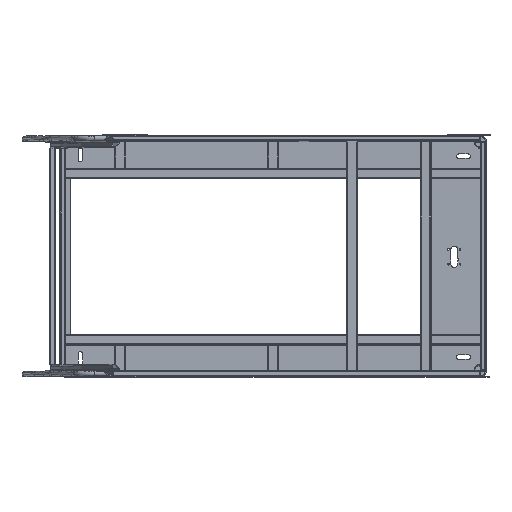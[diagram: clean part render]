
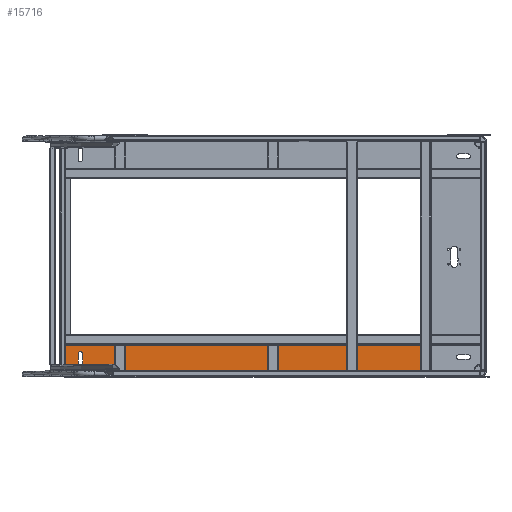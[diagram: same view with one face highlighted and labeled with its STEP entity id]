
A CAD part, top view. The second image highlights one B-rep face of the part: STEP entity #15716.
In plain terms, the highlighted planar face has unit normal (0, 0, 1).
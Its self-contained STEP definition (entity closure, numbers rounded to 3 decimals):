
#2044=FACE_BOUND('',#3921,.T.);
#2156=CIRCLE('',#17687,20.);
#2158=CIRCLE('',#17690,8.5);
#2160=CIRCLE('',#17694,8.5);
#2163=CIRCLE('',#17701,3.);
#2164=CIRCLE('',#17703,3.);
#3127=FACE_OUTER_BOUND('',#3920,.T.);
#3920=EDGE_LOOP('',(#11023,#11024,#11025,#11026,#11027,#11028,#11029));
#3921=EDGE_LOOP('',(#11030,#11031,#11032,#11033));
#4817=LINE('',#25624,#6086);
#4823=LINE('',#25645,#6092);
#4826=LINE('',#25654,#6095);
#4827=LINE('',#25657,#6096);
#4833=LINE('',#25675,#6102);
#4834=LINE('',#25678,#6103);
#6086=VECTOR('',#19912,1.);
#6092=VECTOR('',#19932,1.);
#6095=VECTOR('',#19943,1.);
#6096=VECTOR('',#19946,1.);
#6102=VECTOR('',#19964,1.);
#6103=VECTOR('',#19967,1.);
#7353=VERTEX_POINT('',#25618);
#7355=VERTEX_POINT('',#25622);
#7357=VERTEX_POINT('',#25628);
#7360=VERTEX_POINT('',#25635);
#7361=VERTEX_POINT('',#25637);
#7363=VERTEX_POINT('',#25643);
#7365=VERTEX_POINT('',#25649);
#7366=VERTEX_POINT('',#25656);
#7371=VERTEX_POINT('',#25670);
#7372=VERTEX_POINT('',#25674);
#7373=VERTEX_POINT('',#25676);
#8810=EDGE_CURVE('',#7355,#7353,#4817,.T.);
#8813=EDGE_CURVE('',#7355,#7357,#2156,.T.);
#8816=EDGE_CURVE('',#7360,#7361,#2158,.T.);
#8820=EDGE_CURVE('',#7363,#7360,#4823,.T.);
#8823=EDGE_CURVE('',#7365,#7363,#2160,.T.);
#8825=EDGE_CURVE('',#7361,#7365,#4826,.T.);
#8826=EDGE_CURVE('',#7357,#7366,#4827,.T.);
#8833=EDGE_CURVE('',#7371,#7366,#2163,.T.);
#8835=EDGE_CURVE('',#7371,#7372,#4833,.T.);
#8836=EDGE_CURVE('',#7373,#7372,#2164,.T.);
#8837=EDGE_CURVE('',#7353,#7373,#4834,.T.);
#11023=ORIENTED_EDGE('',*,*,#8826,.T.);
#11024=ORIENTED_EDGE('',*,*,#8833,.F.);
#11025=ORIENTED_EDGE('',*,*,#8835,.T.);
#11026=ORIENTED_EDGE('',*,*,#8836,.F.);
#11027=ORIENTED_EDGE('',*,*,#8837,.F.);
#11028=ORIENTED_EDGE('',*,*,#8810,.F.);
#11029=ORIENTED_EDGE('',*,*,#8813,.T.);
#11030=ORIENTED_EDGE('',*,*,#8823,.F.);
#11031=ORIENTED_EDGE('',*,*,#8825,.F.);
#11032=ORIENTED_EDGE('',*,*,#8816,.F.);
#11033=ORIENTED_EDGE('',*,*,#8820,.F.);
#15331=PLANE('',#17702);
#15716=ADVANCED_FACE('',(#3127,#2044),#15331,.T.);
#17687=AXIS2_PLACEMENT_3D('',#25630,#19918,#19919);
#17690=AXIS2_PLACEMENT_3D('',#25638,#19925,#19926);
#17694=AXIS2_PLACEMENT_3D('',#25651,#19938,#19939);
#17701=AXIS2_PLACEMENT_3D('',#25671,#19959,#19960);
#17702=AXIS2_PLACEMENT_3D('',#25673,#19962,#19963);
#17703=AXIS2_PLACEMENT_3D('',#25677,#19965,#19966);
#19912=DIRECTION('',(0.,1.,0.));
#19918=DIRECTION('center_axis',(0.,0.,1.));
#19919=DIRECTION('ref_axis',(-0.707,-0.707,0.));
#19925=DIRECTION('center_axis',(0.,0.,1.));
#19926=DIRECTION('ref_axis',(-1.,0.,0.));
#19932=DIRECTION('',(0.,1.,0.));
#19938=DIRECTION('center_axis',(0.,0.,1.));
#19939=DIRECTION('ref_axis',(1.,0.,0.));
#19943=DIRECTION('',(0.,-1.,0.));
#19946=DIRECTION('',(1.,0.,0.));
#19959=DIRECTION('center_axis',(0.,0.,-1.));
#19960=DIRECTION('ref_axis',(0.707,-0.707,0.));
#19962=DIRECTION('center_axis',(0.,0.,1.));
#19963=DIRECTION('ref_axis',(1.,0.,0.));
#19964=DIRECTION('',(0.,1.,0.));
#19965=DIRECTION('center_axis',(0.,0.,-1.));
#19966=DIRECTION('ref_axis',(0.707,0.707,0.));
#19967=DIRECTION('',(1.,0.,0.));
#25618=CARTESIAN_POINT('',(460.,-290.,0.));
#25622=CARTESIAN_POINT('',(460.,-430.,0.));
#25624=CARTESIAN_POINT('',(460.,-462.5,0.));
#25628=CARTESIAN_POINT('',(480.,-450.,0.));
#25630=CARTESIAN_POINT('Origin',(480.,-430.,0.));
#25635=CARTESIAN_POINT('',(543.5,-363.,0.));
#25637=CARTESIAN_POINT('',(526.5,-363.,0.));
#25638=CARTESIAN_POINT('Origin',(535.,-363.,0.));
#25643=CARTESIAN_POINT('',(543.5,-397.,0.));
#25645=CARTESIAN_POINT('',(543.5,-185.25,0.));
#25649=CARTESIAN_POINT('',(526.5,-397.,0.));
#25651=CARTESIAN_POINT('Origin',(535.,-397.,0.));
#25654=CARTESIAN_POINT('',(526.5,-202.25,0.));
#25656=CARTESIAN_POINT('',(1819.,-450.,0.));
#25657=CARTESIAN_POINT('',(687.,-450.,0.));
#25670=CARTESIAN_POINT('',(1822.,-447.,0.));
#25671=CARTESIAN_POINT('Origin',(1819.,-447.,0.));
#25673=CARTESIAN_POINT('Origin',(1256.5,-307.5,0.));
#25674=CARTESIAN_POINT('',(1822.,-293.,0.));
#25675=CARTESIAN_POINT('',(1822.,-302.5,0.));
#25676=CARTESIAN_POINT('',(1819.,-290.,0.));
#25677=CARTESIAN_POINT('Origin',(1819.,-293.,0.));
#25678=CARTESIAN_POINT('',(556.815,-290.,0.));
